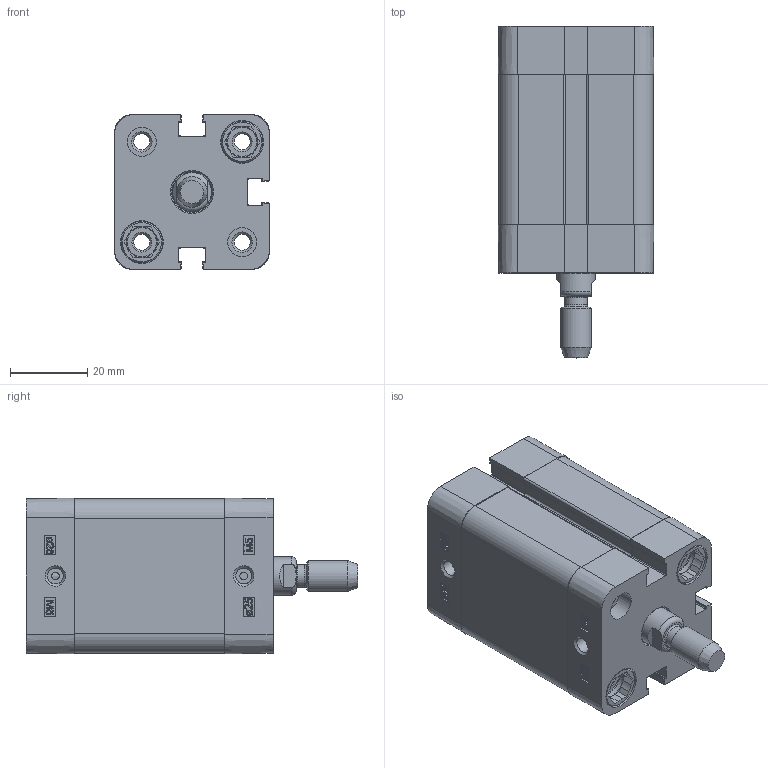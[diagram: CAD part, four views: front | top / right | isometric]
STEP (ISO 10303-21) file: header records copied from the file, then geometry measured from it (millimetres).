
FILE_DESCRIPTION((''),'2;1');
FILE_NAME('T:\Archivio Inventor\- CATALOGHI 2012\SERIE P - NUOVA\PDM\PDM025\PDM025.---.GS.M\PDM025.025.GS.M.stp','2013-01-31T08:05:56',('Administrator'),(''),'Autodesk Inventor 2012','Autodesk Inventor 2012','');
FILE_SCHEMA(('CONFIG_CONTROL_DESIGN'));
Length unit declared in the file: millimetre
Products named in the file (1): PDM025.025.GS.M
Bounding box: 40.3 x 86 x 40.3 mm (x, y, z)
Volume: 61093.5 mm3; surface area: 30254.7 mm2
Topology: 1 solids, 3 shells, 596 faces, 1552 edges, 1017 vertices
Faces by surface type: plane 312, cylinder 130, bspline 92, cone 50, torus 12
Full cylindrical faces by diameter (mm): 2 x2, 4.134 x10, 5.8 x1, 7.5 x4, 7.55 x2, 8 x9, 9 x1, 10 x1, 10.5 x1, 10.8 x4, 11.1 x4, 25 x1, 27.3 x1, 27.5 x1
Entity records: 18782 total; most frequent: CARTESIAN_POINT 4306, ORIENTED_EDGE 2888, DIRECTION 2606, EDGE_CURVE 1444, VERTEX_POINT 1002, VECTOR 898, LINE 898, AXIS2_PLACEMENT_3D 854
